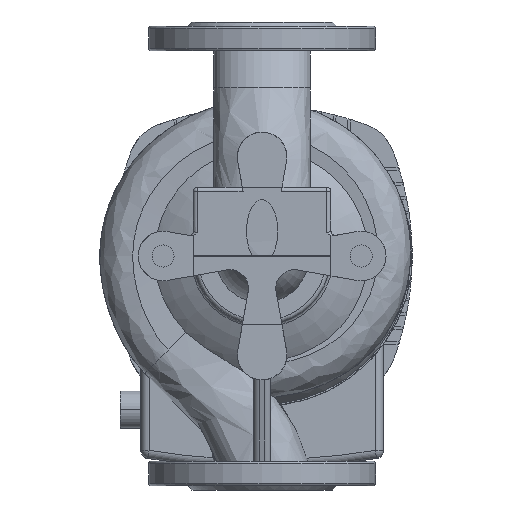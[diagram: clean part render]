
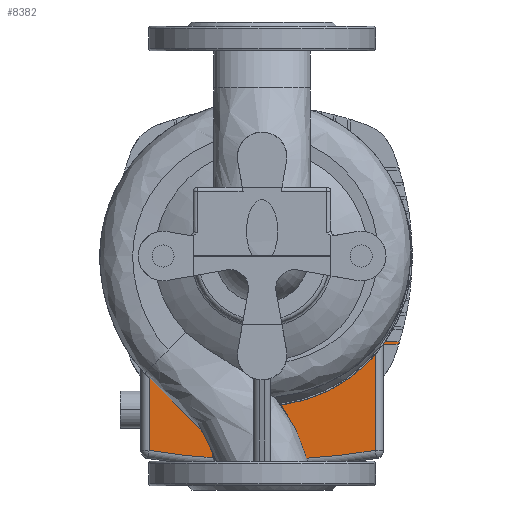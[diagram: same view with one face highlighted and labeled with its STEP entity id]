
A CAD part, front view. The second image highlights one B-rep face of the part: STEP entity #8382.
In plain terms, the highlighted planar face has unit normal (0, -1, 0).
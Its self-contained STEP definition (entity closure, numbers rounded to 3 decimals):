
#299 = DIRECTION ( 'NONE',  ( 0., -1., 0. ) ) ;
#1159 = DIRECTION ( 'NONE',  ( 0., -1., 0. ) ) ;
#1716 = VECTOR ( 'NONE', #35507, 1000. ) ;
#2131 = VERTEX_POINT ( 'NONE', #29636 ) ;
#2455 = VERTEX_POINT ( 'NONE', #38286 ) ;
#2472 = ORIENTED_EDGE ( 'NONE', *, *, #29803, .F. ) ;
#2730 = CARTESIAN_POINT ( 'NONE',  ( -99.09, 240.5, -64.6 ) ) ;
#2744 = LINE ( 'NONE', #29468, #13431 ) ;
#3355 = CARTESIAN_POINT ( 'NONE',  ( 99.09, 240.5, -64.6 ) ) ;
#3737 = EDGE_CURVE ( 'NONE', #32467, #31360, #31473, .T. ) ;
#4459 = AXIS2_PLACEMENT_3D ( 'NONE', #37686, #7201, #20781 ) ;
#4768 = EDGE_CURVE ( 'NONE', #2131, #2455, #25284, .T. ) ;
#5984 = CARTESIAN_POINT ( 'NONE',  ( 0., 240.5, -148. ) ) ;
#6014 = CARTESIAN_POINT ( 'NONE',  ( -82.1, 240.5, -141.227 ) ) ;
#6297 = CARTESIAN_POINT ( 'NONE',  ( -97.799, 240.5, -62. ) ) ;
#6387 = CARTESIAN_POINT ( 'NONE',  ( 0., 240.5, 0. ) ) ;
#7201 = DIRECTION ( 'NONE',  ( 0., -1., 0. ) ) ;
#8382 = ADVANCED_FACE ( 'NONE', ( #28326 ), #31653, .T. ) ;
#8456 = ORIENTED_EDGE ( 'NONE', *, *, #3737, .T. ) ;
#8626 = EDGE_CURVE ( 'NONE', #2131, #32467, #8954, .T. ) ;
#8865 = DIRECTION ( 'NONE',  ( -1., 0., 0. ) ) ;
#8954 = LINE ( 'NONE', #20062, #20210 ) ;
#9482 = VERTEX_POINT ( 'NONE', #21922 ) ;
#9629 = VERTEX_POINT ( 'NONE', #29473 ) ;
#9855 = DIRECTION ( 'NONE',  ( 0., -1., 0. ) ) ;
#10687 = LINE ( 'NONE', #43630, #39204 ) ;
#10718 = ORIENTED_EDGE ( 'NONE', *, *, #13826, .F. ) ;
#12238 = EDGE_CURVE ( 'NONE', #38788, #33285, #15576, .T. ) ;
#12346 = DIRECTION ( 'NONE',  ( 0., -1., 0. ) ) ;
#12453 = CARTESIAN_POINT ( 'NONE',  ( 82.1, 240.5, -141.227 ) ) ;
#12817 = ORIENTED_EDGE ( 'NONE', *, *, #35956, .T. ) ;
#12927 = CIRCLE ( 'NONE', #38470, 501. ) ;
#13119 = CARTESIAN_POINT ( 'NONE',  ( -82.1, 240.5, -107. ) ) ;
#13431 = VECTOR ( 'NONE', #16356, 1000. ) ;
#13826 = EDGE_CURVE ( 'NONE', #21536, #25545, #2744, .T. ) ;
#15170 = EDGE_CURVE ( 'NONE', #9482, #31360, #10687, .T. ) ;
#15576 = LINE ( 'NONE', #16019, #22600 ) ;
#15873 = CIRCLE ( 'NONE', #25844, 501. ) ;
#16019 = CARTESIAN_POINT ( 'NONE',  ( 107., 240.5, -62. ) ) ;
#16356 = DIRECTION ( 'NONE',  ( -0.954, 0., -0.3 ) ) ;
#16548 = CARTESIAN_POINT ( 'NONE',  ( 0., 240.5, 353. ) ) ;
#16575 = AXIS2_PLACEMENT_3D ( 'NONE', #6387, #19969, #8865 ) ;
#16744 = DIRECTION ( 'NONE',  ( 0.954, 0., -0.3 ) ) ;
#17696 = DIRECTION ( 'NONE',  ( -1., 0., 0. ) ) ;
#18006 = ORIENTED_EDGE ( 'NONE', *, *, #8626, .T. ) ;
#18044 = CIRCLE ( 'NONE', #42895, 215.5 ) ;
#18270 = CARTESIAN_POINT ( 'NONE',  ( 107., 240.5, -64. ) ) ;
#19461 = CARTESIAN_POINT ( 'NONE',  ( -97.799, 240.5, -62. ) ) ;
#19969 = DIRECTION ( 'NONE',  ( 0., 1., 0. ) ) ;
#20062 = CARTESIAN_POINT ( 'NONE',  ( 97.182, 240.5, -64. ) ) ;
#20210 = VECTOR ( 'NONE', #16744, 1000. ) ;
#20452 = EDGE_LOOP ( 'NONE', ( #2472, #43647, #24546, #33803, #25131, #28061, #18006, #8456, #33353, #12817, #40511, #20571, #33246, #34557, #10718 ) ) ;
#20571 = ORIENTED_EDGE ( 'NONE', *, *, #12238, .T. ) ;
#20781 = DIRECTION ( 'NONE',  ( 1., 0., 0. ) ) ;
#21536 = VERTEX_POINT ( 'NONE', #43987 ) ;
#21922 = CARTESIAN_POINT ( 'NONE',  ( 97.799, 240.5, -62. ) ) ;
#21942 = CARTESIAN_POINT ( 'NONE',  ( 107., 240.5, -64. ) ) ;
#22030 = DIRECTION ( 'NONE',  ( -1., 0., 0. ) ) ;
#22258 = VECTOR ( 'NONE', #36772, 1000. ) ;
#22551 = LINE ( 'NONE', #30535, #22258 ) ;
#22600 = VECTOR ( 'NONE', #39141, 1000. ) ;
#22700 = VERTEX_POINT ( 'NONE', #26546 ) ;
#23145 = VERTEX_POINT ( 'NONE', #36274 ) ;
#23148 = VERTEX_POINT ( 'NONE', #6014 ) ;
#23435 = DIRECTION ( 'NONE',  ( 0., 0., 1. ) ) ;
#24418 = CIRCLE ( 'NONE', #16575, 90.5 ) ;
#24546 = ORIENTED_EDGE ( 'NONE', *, *, #36311, .T. ) ;
#25131 = ORIENTED_EDGE ( 'NONE', *, *, #36253, .T. ) ;
#25284 = LINE ( 'NONE', #21942, #1716 ) ;
#25545 = VERTEX_POINT ( 'NONE', #2730 ) ;
#25844 = AXIS2_PLACEMENT_3D ( 'NONE', #16548, #9855, #23435 ) ;
#26546 = CARTESIAN_POINT ( 'NONE',  ( -99.713, 240.5, -62.581 ) ) ;
#26823 = CARTESIAN_POINT ( 'NONE',  ( -65.926, 240.5, -62. ) ) ;
#27345 = CARTESIAN_POINT ( 'NONE',  ( 99.713, 240.5, -62.581 ) ) ;
#27915 = LINE ( 'NONE', #28786, #30062 ) ;
#28061 = ORIENTED_EDGE ( 'NONE', *, *, #4768, .F. ) ;
#28068 = EDGE_CURVE ( 'NONE', #33285, #22700, #33889, .T. ) ;
#28326 = FACE_OUTER_BOUND ( 'NONE', #20452, .T. ) ;
#28518 = EDGE_CURVE ( 'NONE', #9629, #23148, #43587, .T. ) ;
#28756 = CARTESIAN_POINT ( 'NONE',  ( -51.5, 240.5, -107. ) ) ;
#28786 = CARTESIAN_POINT ( 'NONE',  ( 107., 240.5, -62. ) ) ;
#29006 = VECTOR ( 'NONE', #30112, 1000. ) ;
#29468 = CARTESIAN_POINT ( 'NONE',  ( -97.182, 240.5, -64. ) ) ;
#29473 = CARTESIAN_POINT ( 'NONE',  ( -82.1, 240.5, -64. ) ) ;
#29636 = CARTESIAN_POINT ( 'NONE',  ( 97.182, 240.5, -64. ) ) ;
#29803 = EDGE_CURVE ( 'NONE', #9629, #21536, #35166, .T. ) ;
#30062 = VECTOR ( 'NONE', #17696, 1000. ) ;
#30112 = DIRECTION ( 'NONE',  ( -0.957, 0., -0.29 ) ) ;
#30535 = CARTESIAN_POINT ( 'NONE',  ( 82.1, 240.5, -107. ) ) ;
#30793 = CARTESIAN_POINT ( 'NONE',  ( 106.5, 240.5, 0. ) ) ;
#31316 = VERTEX_POINT ( 'NONE', #5984 ) ;
#31360 = VERTEX_POINT ( 'NONE', #27345 ) ;
#31473 = CIRCLE ( 'NONE', #4459, 215.5 ) ;
#31653 = PLANE ( 'NONE',  #34039 ) ;
#32467 = VERTEX_POINT ( 'NONE', #3355 ) ;
#33246 = ORIENTED_EDGE ( 'NONE', *, *, #28068, .T. ) ;
#33285 = VERTEX_POINT ( 'NONE', #19461 ) ;
#33353 = ORIENTED_EDGE ( 'NONE', *, *, #15170, .F. ) ;
#33803 = ORIENTED_EDGE ( 'NONE', *, *, #41515, .T. ) ;
#33889 = LINE ( 'NONE', #6297, #29006 ) ;
#34039 = AXIS2_PLACEMENT_3D ( 'NONE', #28756, #1159, #38325 ) ;
#34557 = ORIENTED_EDGE ( 'NONE', *, *, #37439, .T. ) ;
#35166 = LINE ( 'NONE', #18270, #40485 ) ;
#35507 = DIRECTION ( 'NONE',  ( -1., 0., 0. ) ) ;
#35956 = EDGE_CURVE ( 'NONE', #9482, #23145, #27915, .T. ) ;
#36253 = EDGE_CURVE ( 'NONE', #44057, #2455, #22551, .T. ) ;
#36274 = CARTESIAN_POINT ( 'NONE',  ( 65.926, 240.5, -62. ) ) ;
#36311 = EDGE_CURVE ( 'NONE', #23148, #31316, #15873, .T. ) ;
#36352 = DIRECTION ( 'NONE',  ( 0., 0., 1. ) ) ;
#36772 = DIRECTION ( 'NONE',  ( 0., 0., 1. ) ) ;
#37439 = EDGE_CURVE ( 'NONE', #22700, #25545, #18044, .T. ) ;
#37686 = CARTESIAN_POINT ( 'NONE',  ( -106.5, 240.5, 0. ) ) ;
#38017 = EDGE_CURVE ( 'NONE', #23145, #38788, #24418, .T. ) ;
#38286 = CARTESIAN_POINT ( 'NONE',  ( 82.1, 240.5, -64. ) ) ;
#38325 = DIRECTION ( 'NONE',  ( 0., 0., 1. ) ) ;
#38470 = AXIS2_PLACEMENT_3D ( 'NONE', #42813, #12346, #36352 ) ;
#38788 = VERTEX_POINT ( 'NONE', #26823 ) ;
#39141 = DIRECTION ( 'NONE',  ( -1., 0., 0. ) ) ;
#39204 = VECTOR ( 'NONE', #40714, 1000. ) ;
#40239 = DIRECTION ( 'NONE',  ( 0., 0., -1. ) ) ;
#40485 = VECTOR ( 'NONE', #22030, 1000. ) ;
#40511 = ORIENTED_EDGE ( 'NONE', *, *, #38017, .T. ) ;
#40714 = DIRECTION ( 'NONE',  ( 0.957, 0., -0.29 ) ) ;
#41515 = EDGE_CURVE ( 'NONE', #31316, #44057, #12927, .T. ) ;
#42813 = CARTESIAN_POINT ( 'NONE',  ( 0., 240.5, 353. ) ) ;
#42895 = AXIS2_PLACEMENT_3D ( 'NONE', #30793, #299, #43712 ) ;
#43587 = LINE ( 'NONE', #13119, #43980 ) ;
#43630 = CARTESIAN_POINT ( 'NONE',  ( 97.799, 240.5, -62. ) ) ;
#43647 = ORIENTED_EDGE ( 'NONE', *, *, #28518, .T. ) ;
#43712 = DIRECTION ( 'NONE',  ( 1., 0., 0. ) ) ;
#43980 = VECTOR ( 'NONE', #40239, 1000. ) ;
#43987 = CARTESIAN_POINT ( 'NONE',  ( -97.182, 240.5, -64. ) ) ;
#44057 = VERTEX_POINT ( 'NONE', #12453 ) ;
